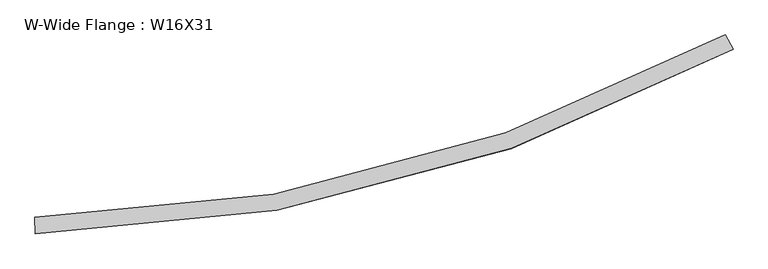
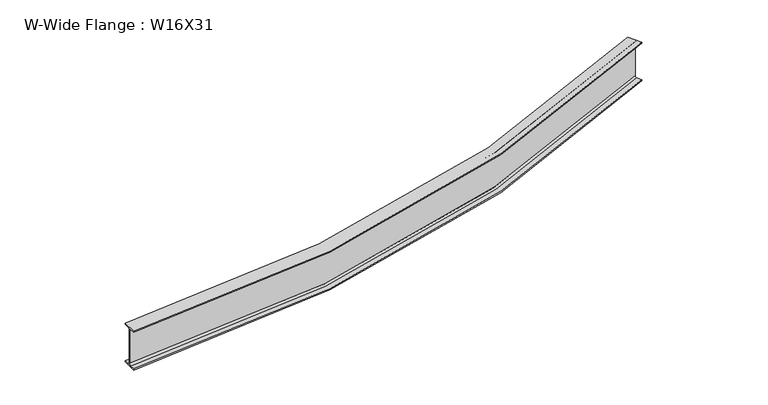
"""IFC4 building model written with IfcOpenShell, lengths in millimetres: beam geometry, W-Wide Flange : W16X31."""

from ifc_helpers import new_model, si_unit, point, frame, origin, place, context, project, spatial, polyline, circle_curve, ellipse_curve, trimmed, source, transform, mapped, element, save
from ifc_brep_helpers import plane_surface, cylinder_surface, revolved_surface, advanced_brep


def w_wide_flange_w16x31_8ecb8886(model_context):
    return source(origin(), model_context, "Body", "AdvancedBrep", [
        advanced_brep(
        [(6106.6437094, 1493.8987471, -190.754), (6106.6437094, 1493.8987471, -201.93), (6039.1190231, 1617.0652612, -201.93), (6039.1190231, 1617.0652612, -190.754), (6062.8381376, 1573.8010743, -190.754), (6071.202407, 1558.5444627, -173.355), (6071.202407, 1558.5444627, 173.355), (6062.8381376, 1573.8010743, 190.754), (6039.1190231, 1617.0652612, 190.754), (6039.1190231, 1617.0652612, 201.93), (6106.6437094, 1493.8987471, 201.93), (6106.6437094, 1493.8987471, 190.754), (6082.9245949, 1537.162934, 190.754), (6074.5603254, 1552.4195456, 173.355), (6074.5603254, 1552.4195456, -173.355), (6082.9245949, 1537.162934, -190.754), (187.278858, -68.8503861, -190.754), (186.551439, -19.5162486, -190.754), (186.2949232, -2.1191396, -173.355), (186.2949232, -2.1191396, 173.355), (186.551439, -19.5162486, 190.754), (187.278858, -68.8503861, 190.754), (187.278858, -68.8503861, 201.93), (185.2080076, 71.5963477, 201.93), (185.2080076, 71.5963477, 190.754), (185.9354266, 22.2622102, 190.754), (186.1919424, 4.8651012, 173.355), (186.1919424, 4.8651012, -173.355), (185.9354266, 22.2622102, -190.754), (185.2080076, 71.5963477, -190.754), (185.2080076, 71.5963477, -201.93), (187.278858, -68.8503861, -201.93)],
        [
            (0, 1),
            (1, 2),
            (2, 3),
            (3, 4),
            (4, 5, circle_curve(frame((6062.8381376, 1573.8010743, -173.355), z_axis=(-0.8768671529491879, -0.48073276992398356, 0.0), x_axis=(-0.48073276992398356, 0.8768671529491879, 0.0)), 17.399)),
            (5, 6),
            (6, 7, circle_curve(frame((6062.8381376, 1573.8010743, 173.355), z_axis=(-0.8768671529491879, -0.48073276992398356, 0.0), x_axis=(-0.48073276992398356, 0.8768671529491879, 0.0)), 17.399)),
            (7, 8),
            (8, 9),
            (9, 10),
            (10, 11),
            (11, 12),
            (12, 13, circle_curve(frame((6082.9245949, 1537.162934, 173.355), z_axis=(-0.8768671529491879, -0.48073276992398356, 0.0), x_axis=(-0.48073276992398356, 0.8768671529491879, 0.0)), 17.399)),
            (13, 14),
            (14, 15, circle_curve(frame((6082.9245949, 1537.162934, -173.355), z_axis=(-0.8768671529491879, -0.48073276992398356, 0.0), x_axis=(-0.48073276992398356, 0.8768671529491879, 0.0)), 17.399)),
            (15, 0),
            (16, 17),
            (17, 18, circle_curve(frame((186.551439, -19.5162486, -173.355), z_axis=(0.999891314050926, 0.014743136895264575, 0.0), x_axis=(-0.014743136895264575, 0.999891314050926, 0.0)), 17.399)),
            (18, 19),
            (19, 20, circle_curve(frame((186.551439, -19.5162486, 173.355), z_axis=(0.999891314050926, 0.014743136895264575, 0.0), x_axis=(-0.014743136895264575, 0.999891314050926, 0.0)), 17.399)),
            (20, 21),
            (21, 22),
            (22, 23),
            (23, 24),
            (24, 25),
            (25, 26, circle_curve(frame((185.9354266, 22.2622102, 173.355), z_axis=(0.999891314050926, 0.014743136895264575, 0.0), x_axis=(-0.014743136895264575, 0.999891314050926, 0.0)), 17.399)),
            (26, 27),
            (27, 28, circle_curve(frame((185.9354266, 22.2622102, -173.355), z_axis=(0.999891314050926, 0.014743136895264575, 0.0), x_axis=(-0.014743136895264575, 0.999891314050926, 0.0)), 17.399)),
            (28, 29),
            (29, 30),
            (30, 31),
            (31, 16),
            (15, 17, circle_curve(frame((0.0, 12632.5512762, -190.754), z_axis=(0.0, 0.0, -1.0), x_axis=(-0.5014171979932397, 0.8652056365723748, 0.0)), 12653.4427762)),
            (16, 0, circle_curve(frame((0.0, 12632.5512762, -190.754), z_axis=(0.0, 0.0, 1.0), x_axis=(-0.5014171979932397, 0.8652056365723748, 0.0)), 12702.7822762)),
            (14, 18, circle_curve(frame((0.0, 12632.5512762, -173.355), z_axis=(0.0, 0.0, -1.0), x_axis=(-0.5014171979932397, 0.8652056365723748, 0.0)), 12636.0437762)),
            (13, 19, circle_curve(frame((0.0, 12632.5512762, 173.355), z_axis=(0.0, 0.0, -1.0), x_axis=(-0.5014171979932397, 0.8652056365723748, 0.0)), 12636.0437762)),
            (12, 20, circle_curve(frame((0.0, 12632.5512762, 190.754), z_axis=(0.0, 0.0, -1.0), x_axis=(-0.5014171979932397, 0.8652056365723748, 0.0)), 12653.4427762)),
            (11, 21, circle_curve(frame((0.0, 12632.5512762, 190.754), z_axis=(0.0, 0.0, -1.0), x_axis=(-0.5014171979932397, 0.8652056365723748, 0.0)), 12702.7822762)),
            (10, 22, circle_curve(frame((0.0, 12632.5512762, 201.93), z_axis=(0.0, 0.0, -1.0), x_axis=(-0.5014171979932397, 0.8652056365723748, 0.0)), 12702.7822762)),
            (9, 23, circle_curve(frame((0.0, 12632.5512762, 201.93), z_axis=(0.0, 0.0, -1.0), x_axis=(-0.5014171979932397, 0.8652056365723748, 0.0)), 12562.3202762)),
            (8, 24, circle_curve(frame((0.0, 12632.5512762, 190.754), z_axis=(0.0, 0.0, -1.0), x_axis=(-0.5014171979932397, 0.8652056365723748, 0.0)), 12562.3202762)),
            (7, 25, circle_curve(frame((0.0, 12632.5512762, 190.754), z_axis=(0.0, 0.0, -1.0), x_axis=(-0.5014171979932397, 0.8652056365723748, 0.0)), 12611.6597762)),
            (6, 26, circle_curve(frame((0.0, 12632.5512762, 173.355), z_axis=(0.0, 0.0, -1.0), x_axis=(-0.5014171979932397, 0.8652056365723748, 0.0)), 12629.0587762)),
            (5, 27, circle_curve(frame((0.0, 12632.5512762, -173.355), z_axis=(0.0, 0.0, -1.0), x_axis=(-0.5014171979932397, 0.8652056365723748, 0.0)), 12629.0587762)),
            (4, 28, circle_curve(frame((0.0, 12632.5512762, -190.754), z_axis=(0.0, 0.0, -1.0), x_axis=(-0.5014171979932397, 0.8652056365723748, 0.0)), 12611.6597762)),
            (3, 29, circle_curve(frame((0.0, 12632.5512762, -190.754), z_axis=(0.0, 0.0, -1.0), x_axis=(-0.5014171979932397, 0.8652056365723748, 0.0)), 12562.3202762)),
            (2, 30, circle_curve(frame((0.0, 12632.5512762, -201.93), z_axis=(0.0, 0.0, -1.0), x_axis=(-0.5014171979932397, 0.8652056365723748, 0.0)), 12562.3202762)),
            (1, 31, circle_curve(frame((0.0, 12632.5512762, -201.93), z_axis=(0.0, 0.0, -1.0), x_axis=(-0.5014171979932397, 0.8652056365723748, 0.0)), 12702.7822762)),
        ],
        [
            plane_surface(frame((6072.8813662, 1555.4820042, 0.0), z_axis=(0.8768671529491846, 0.4807327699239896, 0.0), x_axis=(0.0, 0.0, 1.0))),
            plane_surface(frame((186.2434328, 1.3729808, 0.0), z_axis=(-0.9998913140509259, -0.014743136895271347, 0.0), x_axis=(0.0, 0.0, 1.0))),
            plane_surface(frame((0.0, 12632.5512762, -190.754), z_axis=(0.0, 0.0, 1.0), x_axis=(-0.5014171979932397, 0.8652056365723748, 0.0))),
            revolved_surface(trimmed(ellipse_curve(frame((-6344.6538218, 23580.3812883, -173.355), z_axis=(0.8652056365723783, 0.5014171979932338, 0.0), x_axis=(0.5014171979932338, -0.8652056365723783, 0.0)), 17.399, 17.399), [point((-6335.929664, 23565.3275754, -173.355))], [point((-6344.6538218, 23580.3812883, -190.754))], True, "CARTESIAN"), (0.0, 12632.5512762, 0.0), (0.0, 0.0, -1.0)),
            cylinder_surface(frame((0.0, 12632.5512762, 0.0), z_axis=(0.0, 0.0, -1.0), x_axis=(-0.5014171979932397, 0.8652056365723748, 0.0)), 12636.0437762),
            revolved_surface(trimmed(ellipse_curve(frame((-6344.6538218, 23580.3812883, 173.355), z_axis=(0.8652056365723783, 0.5014171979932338, 0.0), x_axis=(0.5014171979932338, -0.8652056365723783, 0.0)), 17.399, 17.399), [point((-6344.6538218, 23580.3812883, 190.754))], [point((-6335.929664, 23565.3275754, 173.355))], True, "CARTESIAN"), (0.0, 12632.5512762, 0.0), (0.0, 0.0, -1.0)),
            plane_surface(frame((0.0, 12632.5512762, 190.754), z_axis=(0.0, 0.0, -1.0), x_axis=(-0.5014171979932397, 0.8652056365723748, 0.0))),
            cylinder_surface(frame((0.0, 12632.5512762, 0.0), z_axis=(0.0, 0.0, -1.0), x_axis=(-0.5014171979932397, 0.8652056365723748, 0.0)), 12702.7822762),
            plane_surface(frame((0.0, 12632.5512762, 201.93), z_axis=(0.0, 0.0, 1.0), x_axis=(-0.5014171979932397, 0.8652056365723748, 0.0))),
            revolved_surface(polyline([(-6298.963433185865, 23501.54158759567, 190.754), (-6298.963433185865, 23501.54158759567, 201.93)]), (0.0, 12632.5512762, 0.0), (0.0, 0.0, -1.0)),
            revolved_surface(trimmed(ellipse_curve(frame((-6323.703107, 23544.2304011, 173.355), z_axis=(0.8652056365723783, 0.5014171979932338, 0.0), x_axis=(0.5014171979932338, -0.8652056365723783, 0.0)), 17.399, 17.399), [point((-6332.4272649, 23559.284114, 173.355))], [point((-6323.703107, 23544.2304011, 190.754))], True, "CARTESIAN"), (0.0, 12632.5512762, 0.0), (0.0, 0.0, -1.0)),
            revolved_surface(polyline([(-6332.427264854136, 23559.284113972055, -173.355), (-6332.427264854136, 23559.284113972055, 173.355)]), (0.0, 12632.5512762, 0.0), (0.0, 0.0, -1.0)),
            revolved_surface(trimmed(ellipse_curve(frame((-6323.703107, 23544.2304011, -173.355), z_axis=(0.8652056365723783, 0.5014171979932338, 0.0), x_axis=(0.5014171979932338, -0.8652056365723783, 0.0)), 17.399, 17.399), [point((-6323.703107, 23544.2304011, -190.754))], [point((-6332.4272649, 23559.284114, -173.355))], True, "CARTESIAN"), (0.0, 12632.5512762, 0.0), (0.0, 0.0, -1.0)),
            revolved_surface(polyline([(-6298.963433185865, 23501.54158759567, -201.93), (-6298.963433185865, 23501.54158759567, -190.754)]), (0.0, 12632.5512762, 0.0), (0.0, 0.0, -1.0)),
            plane_surface(frame((0.0, 12632.5512762, -201.93), z_axis=(0.0, 0.0, -1.0), x_axis=(-0.5014171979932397, 0.8652056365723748, 0.0))),
        ],
        [
            (0, [[1, 2, 3, 4, 5, 6, 7, 8, 9, 10, 11, 12, 13, 14, 15, 16]]),
            (1, [[17, 18, 19, 20, 21, 22, 23, 24, 25, 26, 27, 28, 29, 30, 31, 32]]),
            (2, [[33, -17, 34, -16]]),
            (3, [[35, -18, -33, -15]]),
            (4, [[36, -19, -35, -14]]),
            (5, [[37, -20, -36, -13]]),
            (6, [[38, -21, -37, -12]]),
            (7, [[39, -22, -38, -11]]),
            (8, [[40, -23, -39, -10]]),
            (9, [[41, -24, -40, -9]]),
            (6, [[42, -25, -41, -8]]),
            (10, [[43, -26, -42, -7]]),
            (11, [[44, -27, -43, -6]]),
            (12, [[45, -28, -44, -5]]),
            (2, [[46, -29, -45, -4]]),
            (13, [[47, -30, -46, -3]]),
            (14, [[48, -31, -47, -2]]),
            (7, [[-34, -32, -48, -1]]),
        ],
    ),
    ])


if __name__ == "__main__":
    model = new_model("IFC4")
    model_context = context("Model", 3, world=origin())
    ifc_project = project(units=[si_unit("LENGTHUNIT", "METRE", prefix="MILLI")], contexts=[model_context])
    site = spatial("IfcSite", under=ifc_project)
    building = spatial("IfcBuilding", under=site)
    placement = place(None, origin())
    w_wide_flange_w16x31_shape = w_wide_flange_w16x31_8ecb8886(model_context)
    element("IfcBeam", 1, ObjectType="W-Wide Flange : W16X31", at=placement, inside=building, context=model_context, shape_type="MappedRepresentation", body=[
        mapped(w_wide_flange_w16x31_shape, transform((0.0, 0.0, 0.0), x_axis=(1.0, 0.0, 0.0), y_axis=(0.0, 1.0, 0.0), z_axis=(0.0, 0.0, 1.0))),
    ])
    save(model, "model.ifc")
